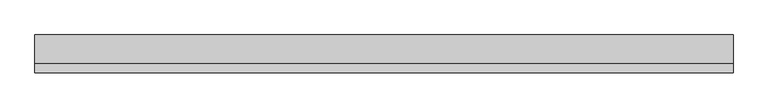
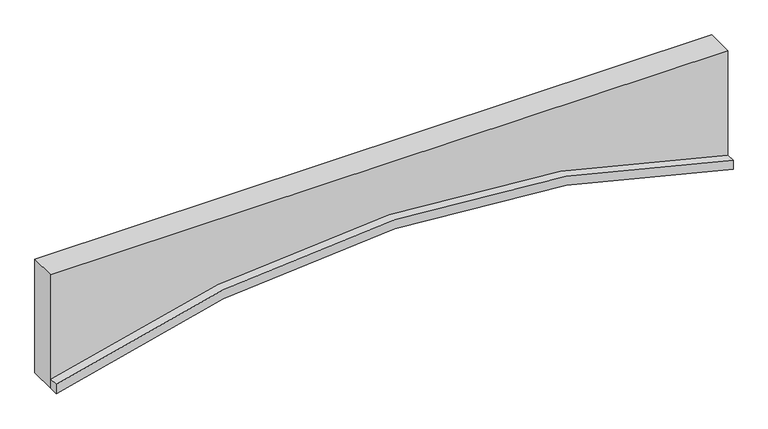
"""IFC4 building model written with IfcOpenShell, lengths in millimetres: proxy geometry, 走廊板 : h=300mm."""

from ifc_helpers import new_model, si_unit, point, frame, frame_2d, origin, place, context, project, spatial, polyline, circle_curve, trimmed, segment, composite_curve, outline, extrude, source, transform, mapped, element, save


def generic_models_fbc45798(model_context):
    return source(origin(), model_context, "Body", "SweptSolid", [
        extrude(outline(composite_curve([segment(trimmed(circle_curve(frame_2d((-12200.0, 3700.0)), 11500.0), [point((-1311.4739289, 0.0))], [point((-1311.4739289, 7400.0))], True, "CARTESIAN"), True, "CONTINUOUS"), segment(polyline([(-1311.4739289, 7400.0), (-1205.9106789, 7400.0)]), True, "CONTINUOUS"), segment(trimmed(circle_curve(frame_2d((-12200.0, 3700.0)), 11600.0), [point((-1205.9106789, 7400.0))], [point((-1205.9106789, 0.0))], False, "CARTESIAN"), True, "CONTINUOUS"), segment(polyline([(-1205.9106789, 0.0), (-1311.4739289, 0.0)]), True, "CONTINUOUS")], self_intersect=False)), frame((0.0, -250.0, 0.0), z_axis=(0.0, 1.0, 0.0), x_axis=(0.0, 0.0, 1.0)), (0.0, 0.0, 1.0), 100.0),
        extrude(outline(composite_curve([segment(polyline([(0.0, 7400.0), (0.0, 0.0), (-1311.4739289, 0.0)]), True, "CONTINUOUS"), segment(trimmed(circle_curve(frame_2d((-12200.0, 3700.0)), 11500.0), [point((-1311.4739289, 0.0))], [point((-1311.4739289, 7400.0))], True, "CARTESIAN"), True, "CONTINUOUS"), segment(polyline([(-1311.4739289, 7400.0), (0.0, 7400.0)]), True, "CONTINUOUS")], self_intersect=False)), frame((0.0, -150.0, 0.0), z_axis=(0.0, 1.0, 0.0), x_axis=(0.0, 0.0, 1.0)), (0.0, 0.0, 1.0), 300.0),
    ])


if __name__ == "__main__":
    model = new_model("IFC4")
    model_context = context("Model", 3, world=origin())
    ifc_project = project(units=[si_unit("LENGTHUNIT", "METRE", prefix="MILLI")], contexts=[model_context])
    site = spatial("IfcSite", under=ifc_project)
    building = spatial("IfcBuilding", under=site)
    placement = place(None, origin())
    generic_models_shape = generic_models_fbc45798(model_context)
    element("IfcBuildingElementProxy", 1, Name="走廊板 : h=300mm", ObjectType="走廊板 : h=300mm", at=placement, inside=building, context=model_context, shape_type="MappedRepresentation", body=[
        mapped(generic_models_shape, transform((0.0, 0.0, 0.0), x_axis=(1.0, 0.0, 0.0), y_axis=(0.0, 1.0, 0.0), z_axis=(0.0, 0.0, 1.0))),
    ])
    save(model, "model.ifc")
